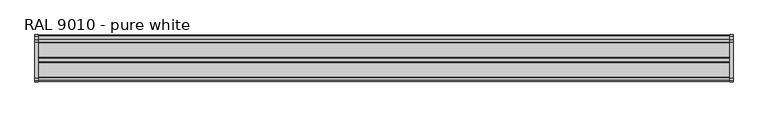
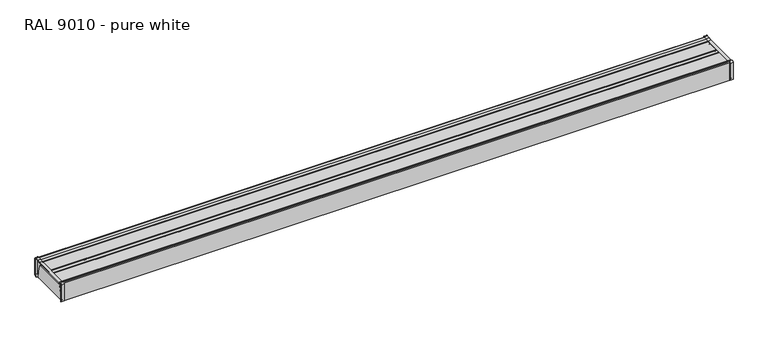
"""IFC4 building model written with IfcOpenShell, lengths in millimetres: proxy geometry, Electrical_Installations_Hager_GBD-Flat-Lid-End-Cap : RAL 9010 - pure white."""

from ifc_helpers import new_model, si_unit, point, frame, frame_2d, origin, place, context, project, spatial, polyline, circle_curve, trimmed, segment, composite_curve, outline, extrude, source, transform, mapped, element, save
from ifc_brep_helpers import plane_surface, cylinder_surface, revolved_surface, advanced_brep


def ral_9010_pure_white_cb93105c(model_context):
    return source(origin(), model_context, "Body", "SolidModel", [
        extrude(outline(composite_curve([segment(trimmed(circle_curve(frame_2d((-49.8914345, 39.6343363)), 5.8656637), [point((-55.5085432, 41.3237445))], [point((-49.8914345, 45.5))], False, "CARTESIAN"), True, "CONTINUOUS"), segment(polyline([(-49.8914345, 45.5), (43.4631366, 45.5)]), True, "CONTINUOUS"), segment(trimmed(circle_curve(frame_2d((43.4631366, 39.5252885)), 5.9747115), [point((43.4631366, 45.5))], [point((49.1782923, 41.2671763))], False, "CARTESIAN"), True, "CONTINUOUS"), segment(trimmed(circle_curve(frame_2d((-128.3197107, -12.8313689)), 185.5591379), [point((49.1782923, 41.2671763))], [point((56.7151603, 1.1074319))], False, "CARTESIAN"), True, "CONTINUOUS"), segment(trimmed(circle_curve(frame_2d((55.6880142, 1.0300563)), 1.0300563), [point((56.7151603, 1.1074319))], [point((55.6880142, 0.0))], False, "CARTESIAN"), True, "CONTINUOUS"), segment(polyline([(55.6880142, 0.0), (-62.1861095, 0.0)]), True, "CONTINUOUS"), segment(trimmed(circle_curve(frame_2d((-62.1861095, 0.9434111)), 0.9434111), [point((-62.1861095, 0.0))], [point((-63.1263922, 1.0201774))], False, "CARTESIAN"), True, "CONTINUOUS"), segment(trimmed(circle_curve(frame_2d((131.2639828, -14.8501783)), 195.0371403), [point((-63.1263922, 1.0201774))], [point((-55.5085432, 41.3237445))], False, "CARTESIAN"), True, "CONTINUOUS")], self_intersect=False)), frame((2002.3392846, 0.0, 0.0), z_axis=(1.0, 0.0, 0.0), x_axis=(0.0, 1.0, 0.0)), (0.0, 0.0, 1.0), 5.5),
        advanced_brep(
        [(2009.0, 68.3826134, 5.0), (2009.0, 68.3826134, 54.4464817), (2009.0, 64.629095, 58.2), (2009.0, 54.3382065, 58.2), (2009.0, 46.6439977, 55.7), (2009.0, -56.7371553, 55.7), (2009.0, -63.8534471, 58.0122234), (2009.0, -68.7173866, 54.4783645), (2009.0, -68.7173866, 0.0), (2009.0, -67.2173866, 0.0), (2009.0, -67.2173866, 54.4740947), (2009.0, -64.3129118, 56.5843192), (2009.0, -56.974732, 54.2), (2009.0, 46.8815743, 54.2), (2009.0, 54.5757832, 56.7), (2009.0, 64.676444, 56.7), (2009.0, 66.8826134, 54.4938306), (2009.0, 66.8826134, 5.2469728), (2009.0, 61.6356406, 0.0), (2009.0, 63.3826134, 0.0), (2000.0, 68.3826134, 5.0), (2000.0, 63.3826134, 0.0), (2000.0, -68.7173866, 0.0), (2000.0, -68.7173866, 54.4783645), (2000.0, -63.8534471, 58.0122234), (2000.0, -56.7371553, 55.7), (2000.0, 46.6439977, 55.7), (2000.0, 54.3382065, 58.2), (2000.0, 64.629095, 58.2), (2000.0, 68.3826134, 54.4464817), (2002.3392846, 68.3826134, 5.0), (2002.3392846, 68.3826134, 54.4464817), (2002.3392846, 64.629095, 58.2), (2002.3392846, 54.3382065, 58.2), (2002.3392846, 46.6439977, 55.7), (2002.3392846, -56.7371553, 55.7), (2002.3392846, -63.8534471, 58.0122234), (2002.3392846, -68.7173866, 54.4783645), (2002.3392846, 61.6356406, 0.0), (2002.3392846, -67.2173866, 0.0), (2002.3392846, -67.2173866, 54.4740947), (2002.3392846, -64.3129118, 56.5843192), (2002.3392846, -56.974732, 54.2), (2002.3392846, 46.8815743, 54.2), (2002.3392846, 54.5757832, 56.7), (2002.3392846, 64.676444, 56.7), (2002.3392846, 66.8826134, 54.4938306), (2002.3392846, 66.8826134, 5.2469728)],
        [
            (0, 1),
            (1, 2, circle_curve(frame((2009.0, 64.629095, 54.4464817), z_axis=(1.0, 0.0, 0.0), x_axis=(0.0, -1.0, 0.0)), 3.7535183)),
            (2, 3),
            (3, 4),
            (4, 5),
            (5, 6),
            (6, 7, circle_curve(frame((2009.0, -65.0016675, 54.4783645), z_axis=(1.0, 0.0, 0.0), x_axis=(0.0, -1.0, 0.0)), 3.7157191)),
            (7, 8),
            (8, 9),
            (9, 10),
            (10, 11, circle_curve(frame((2009.0, -64.9985653, 54.4740947), z_axis=(-1.0, 0.0, 0.0), x_axis=(0.0, -1.0, 0.0)), 2.2188213)),
            (11, 12),
            (12, 13),
            (13, 14),
            (14, 15),
            (15, 16, circle_curve(frame((2009.0, 64.676444, 54.4938306), z_axis=(-1.0, 0.0, 0.0), x_axis=(0.0, -1.0, 0.0)), 2.2061694)),
            (16, 17),
            (17, 18),
            (18, 19),
            (19, 0),
            (20, 21),
            (21, 22),
            (22, 23),
            (23, 24, circle_curve(frame((2000.0, -65.0016675, 54.4783645), z_axis=(-1.0, 0.0, 0.0), x_axis=(0.0, -1.0, 0.0)), 3.7157191)),
            (24, 25),
            (25, 26),
            (26, 27),
            (27, 28),
            (28, 29, circle_curve(frame((2000.0, 64.629095, 54.4464817), z_axis=(-1.0, 0.0, 0.0), x_axis=(0.0, -1.0, 0.0)), 3.7535183)),
            (29, 20),
            (0, 30),
            (30, 20),
            (29, 31),
            (31, 1),
            (28, 32),
            (32, 2),
            (27, 33),
            (33, 3),
            (26, 34),
            (34, 4),
            (25, 35),
            (35, 5),
            (24, 36),
            (36, 6),
            (23, 37),
            (37, 7),
            (22, 8),
            (21, 19),
            (18, 38),
            (38, 39),
            (39, 9),
            (39, 40),
            (40, 10),
            (40, 41, circle_curve(frame((2002.3392846, -64.9985653, 54.4740947), z_axis=(-1.0, 0.0, 0.0), x_axis=(0.0, -1.0, 0.0)), 2.2188213)),
            (41, 11),
            (41, 42),
            (42, 12),
            (42, 43),
            (43, 13),
            (43, 44),
            (44, 14),
            (44, 45),
            (45, 15),
            (45, 46, circle_curve(frame((2002.3392846, 64.676444, 54.4938306), z_axis=(-1.0, 0.0, 0.0), x_axis=(0.0, -1.0, 0.0)), 2.2061694)),
            (46, 16),
            (46, 47),
            (47, 17),
            (47, 38),
        ],
        [
            plane_surface(frame((2009.0, 0.0, 0.0), z_axis=(1.0, 0.0, 0.0), x_axis=(0.0, 0.0, 1.0))),
            plane_surface(frame((2000.0, 0.0, 0.0), z_axis=(-1.0, 0.0, 0.0), x_axis=(0.0, 0.0, 1.0))),
            plane_surface(frame((2009.0, 68.3826134, 5.0), z_axis=(0.0, 1.0, 0.0), x_axis=(-1.0, 0.0, 0.0))),
            cylinder_surface(frame((2009.0, 64.629095, 54.4464817), z_axis=(1.0, 0.0, 0.0), x_axis=(0.0, -1.0, 0.0)), 3.7535183),
            plane_surface(frame((2009.0, 64.629095, 58.2), z_axis=(0.0, 0.0, 1.0), x_axis=(-1.0, 0.0, 0.0))),
            plane_surface(frame((2009.0, 54.3382065, 58.2), z_axis=(0.0, -0.30901699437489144, 0.9510565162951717), x_axis=(-1.0, 0.0, 0.0))),
            plane_surface(frame((2009.0, 46.6439977, 55.7), z_axis=(0.0, 0.0, 1.0), x_axis=(-1.0, 0.0, 0.0))),
            plane_surface(frame((2009.0, -56.7371553, 55.7), z_axis=(0.0, 0.30901699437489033, 0.9510565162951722), x_axis=(-1.0, 0.0, 0.0))),
            cylinder_surface(frame((2009.0, -65.0016675, 54.4783645), z_axis=(1.0, 0.0, 0.0), x_axis=(0.0, -1.0, 0.0)), 3.7157191),
            plane_surface(frame((2009.0, -68.7173866, 54.4783645), z_axis=(0.0, -1.0, 0.0), x_axis=(-1.0, 0.0, 0.0))),
            plane_surface(frame((2009.0, -68.7173866, 0.0), z_axis=(0.0, 0.0, -1.0), x_axis=(-1.0, 0.0, 0.0))),
            plane_surface(frame((2009.0, -67.2173866, 0.0), z_axis=(0.0, 1.0, 0.0), x_axis=(-1.0, 0.0, 0.0))),
            revolved_surface(polyline([(2002.3392846, -67.2173866, 54.4740947), (2009.0, -67.2173866, 54.4740947)]), (2009.0, -64.9985653, 54.4740947), (-1.0, 0.0, 0.0)),
            plane_surface(frame((2009.0, -64.3129118, 56.5843192), z_axis=(0.0, -0.3090169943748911, -0.951056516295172), x_axis=(-1.0, 0.0, 0.0))),
            plane_surface(frame((2009.0, -56.974732, 54.2), z_axis=(0.0, 0.0, -1.0), x_axis=(-1.0, 0.0, 0.0))),
            plane_surface(frame((2009.0, 46.8815743, 54.2), z_axis=(0.0, 0.30901699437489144, -0.9510565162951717), x_axis=(-1.0, 0.0, 0.0))),
            plane_surface(frame((2009.0, 54.5757832, 56.7), z_axis=(0.0, 0.0, -1.0), x_axis=(-1.0, 0.0, 0.0))),
            revolved_surface(polyline([(2002.3392846, 62.4702746, 54.4938306), (2009.0, 62.4702746, 54.4938306)]), (2009.0, 64.676444, 54.4938306), (-1.0, 0.0, 0.0)),
            plane_surface(frame((2009.0, 66.8826134, 54.4938306), z_axis=(0.0, -1.0, 0.0), x_axis=(-1.0, 0.0, 0.0))),
            plane_surface(frame((2009.0, 66.8826134, 5.2469728), z_axis=(0.0, -0.7071067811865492, 0.7071067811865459), x_axis=(-1.0, 0.0, 0.0))),
            plane_surface(frame((2009.0, 63.3826134, 0.0), z_axis=(0.0, 0.7071067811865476, -0.7071067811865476), x_axis=(-1.0, 0.0, 0.0))),
            plane_surface(frame((2002.3392846, -68.7173866, 54.4783645), z_axis=(1.0, 0.0, 0.0), x_axis=(0.0, 0.0, -1.0))),
        ],
        [
            (0, [[1, 2, 3, 4, 5, 6, 7, 8, 9, 10, 11, 12, 13, 14, 15, 16, 17, 18, 19, 20]]),
            (1, [[21, 22, 23, 24, 25, 26, 27, 28, 29, 30]]),
            (2, [[-1, 31, 32, -30, 33, 34]]),
            (3, [[-2, -34, -33, -29, 35, 36]]),
            (4, [[-3, -36, -35, -28, 37, 38]]),
            (5, [[-4, -38, -37, -27, 39, 40]]),
            (6, [[-5, -40, -39, -26, 41, 42]]),
            (7, [[-6, -42, -41, -25, 43, 44]]),
            (8, [[-7, -44, -43, -24, 45, 46]]),
            (9, [[47, -8, -46, -45, -23]]),
            (10, [[-9, -47, -22, 48, -19, 49, 50, 51]]),
            (11, [[-10, -51, 52, 53]]),
            (12, [[-11, -53, 54, 55]]),
            (13, [[-12, -55, 56, 57]]),
            (14, [[-13, -57, 58, 59]]),
            (15, [[-14, -59, 60, 61]]),
            (16, [[-15, -61, 62, 63]]),
            (17, [[-16, -63, 64, 65]]),
            (18, [[-17, -65, 66, 67]]),
            (19, [[-18, -67, 68, -49]]),
            (20, [[-20, -48, -21, -32, -31]]),
            (21, [[-50, -68, -66, -64, -62, -60, -58, -56, -54, -52]]),
        ],
    ),
        advanced_brep(
        [(-9.0, 68.3826134, 5.0), (-9.0, 63.3826134, 0.0), (-9.0, 61.6356406, 0.0), (-9.0, 66.8826134, 5.2469728), (-9.0, 66.8826134, 54.4938306), (-9.0, 64.676444, 56.7), (-9.0, 54.5757832, 56.7), (-9.0, 46.8815743, 54.2), (-9.0, -56.974732, 54.2), (-9.0, -64.3129118, 56.5843192), (-9.0, -67.2173866, 54.4740947), (-9.0, -67.2173866, 0.0), (-9.0, -68.7173866, 0.0), (-9.0, -68.7173866, 54.4783645), (-9.0, -63.8534471, 58.0122234), (-9.0, -56.7371553, 55.7), (-9.0, 46.6439977, 55.7), (-9.0, 54.3382065, 58.2), (-9.0, 64.629095, 58.2), (-9.0, 68.3826134, 54.4464817), (0.0, 68.3826134, 5.0), (0.0, 68.3826134, 54.4464817), (0.0, 64.629095, 58.2), (0.0, 54.3382065, 58.2), (0.0, 46.6439977, 55.7), (0.0, -56.7371553, 55.7), (0.0, -63.8534471, 58.0122234), (0.0, -68.7173866, 54.4783645), (0.0, -68.7173866, 0.0), (0.0, 63.3826134, 0.0), (-2.3392846, 68.3826134, 54.4464817), (-2.3392846, 68.3826134, 5.0), (-2.3392846, 64.629095, 58.2), (-2.3392846, 54.3382065, 58.2), (-2.3392846, 46.6439977, 55.7), (-2.3392846, -56.7371553, 55.7), (-2.3392846, -63.8534471, 58.0122234), (-2.3392846, -68.7173866, 54.4783645), (-2.3392846, -67.2173866, 0.0), (-2.3392846, -62.1861095, 0.0), (-5.4994698, -62.1861095, 0.0), (-5.4994698, 55.6880142, 0.0), (-2.3392846, 55.6880142, 0.0), (-2.3392846, 61.6356406, 0.0), (-2.3392846, -67.2173866, 54.4740947), (-2.3392846, -64.3129118, 56.5843192), (-2.3392846, -56.974732, 54.2), (-2.3392846, 46.8815743, 54.2), (-2.3392846, 54.5757832, 56.7), (-2.3392846, 64.676444, 56.7), (-2.3392846, 66.8826134, 54.4938306), (-2.3392846, 66.8826134, 5.2469728), (-2.3392846, 56.7151603, 1.1074319), (-2.3392846, 49.1782923, 41.2671763), (-2.3392846, 43.4631366, 45.5), (-2.3392846, -49.8914345, 45.5), (-2.3392846, -55.5085432, 41.3237445), (-2.3392846, -63.1263922, 1.0201774), (-5.4994698, -49.8914345, 45.5), (-5.4994698, 43.4631366, 45.5), (-5.4994698, 49.1782923, 41.2671763), (-5.4994698, 56.7151603, 1.1074319), (-5.4994698, -63.1263922, 1.0201774), (-5.4994698, -55.5085432, 41.3237445)],
        [
            (0, 1),
            (1, 2),
            (2, 3),
            (3, 4),
            (4, 5, circle_curve(frame((-9.0, 64.676444, 54.4938306), z_axis=(1.0, 0.0, 0.0), x_axis=(0.0, 1.0, 0.0)), 2.2061694)),
            (5, 6),
            (6, 7),
            (7, 8),
            (8, 9),
            (9, 10, circle_curve(frame((-9.0, -64.9985653, 54.4740947), z_axis=(1.0, 0.0, 0.0), x_axis=(0.0, 1.0, 0.0)), 2.2188213)),
            (10, 11),
            (11, 12),
            (12, 13),
            (13, 14, circle_curve(frame((-9.0, -65.0016675, 54.4783645), z_axis=(-1.0, 0.0, 0.0), x_axis=(0.0, 1.0, 0.0)), 3.7157191)),
            (14, 15),
            (15, 16),
            (16, 17),
            (17, 18),
            (18, 19, circle_curve(frame((-9.0, 64.629095, 54.4464817), z_axis=(-1.0, 0.0, 0.0), x_axis=(0.0, 1.0, 0.0)), 3.7535183)),
            (19, 0),
            (20, 21),
            (21, 22, circle_curve(frame((0.0, 64.629095, 54.4464817), z_axis=(1.0, 0.0, 0.0), x_axis=(0.0, 1.0, 0.0)), 3.7535183)),
            (22, 23),
            (23, 24),
            (24, 25),
            (25, 26),
            (26, 27, circle_curve(frame((0.0, -65.0016675, 54.4783645), z_axis=(1.0, 0.0, 0.0), x_axis=(0.0, 1.0, 0.0)), 3.7157191)),
            (27, 28),
            (28, 29),
            (29, 20),
            (19, 30),
            (30, 21),
            (20, 31),
            (31, 0),
            (18, 32),
            (32, 22),
            (17, 33),
            (33, 23),
            (16, 34),
            (34, 24),
            (15, 35),
            (35, 25),
            (14, 36),
            (36, 26),
            (13, 37),
            (37, 27),
            (12, 28),
            (1, 29),
            (11, 38),
            (38, 39),
            (39, 40),
            (40, 41),
            (41, 42),
            (42, 43),
            (43, 2),
            (10, 44),
            (44, 38),
            (9, 45),
            (45, 44, circle_curve(frame((-2.3392846, -64.9985653, 54.4740947), z_axis=(1.0, 0.0, 0.0), x_axis=(0.0, 1.0, 0.0)), 2.2188213)),
            (8, 46),
            (46, 45),
            (7, 47),
            (47, 46),
            (6, 48),
            (48, 47),
            (5, 49),
            (49, 48),
            (4, 50),
            (50, 49, circle_curve(frame((-2.3392846, 64.676444, 54.4938306), z_axis=(1.0, 0.0, 0.0), x_axis=(0.0, 1.0, 0.0)), 2.2061694)),
            (3, 51),
            (51, 50),
            (43, 51),
            (42, 52, circle_curve(frame((-2.3392846, 55.6880142, 1.0300563), z_axis=(1.0, 0.0, 0.0), x_axis=(0.0, 0.0, 1.0)), 1.0300563)),
            (52, 53, circle_curve(frame((-2.3392846, -128.3197107, -12.8313689), z_axis=(1.0, 0.0, 0.0), x_axis=(0.0, 0.0, 1.0)), 185.5591379)),
            (53, 54, circle_curve(frame((-2.3392846, 43.4631366, 39.5252885), z_axis=(1.0, 0.0, 0.0), x_axis=(0.0, 0.0, 1.0)), 5.9747115)),
            (54, 55),
            (55, 56, circle_curve(frame((-2.3392846, -49.8914345, 39.6343363), z_axis=(1.0, 0.0, 0.0), x_axis=(0.0, 0.0, 1.0)), 5.8656637)),
            (56, 57, circle_curve(frame((-2.3392846, 131.2639828, -14.8501783), z_axis=(1.0, 0.0, 0.0), x_axis=(0.0, 0.0, 1.0)), 195.0371403)),
            (57, 39, circle_curve(frame((-2.3392846, -62.1861095, 0.9434111), z_axis=(1.0, 0.0, 0.0), x_axis=(0.0, 0.0, 1.0)), 0.9434111)),
            (58, 59),
            (59, 60, circle_curve(frame((-5.4994698, 43.4631366, 39.5252885), z_axis=(-1.0, 0.0, 0.0), x_axis=(0.0, 0.0, 1.0)), 5.9747115)),
            (60, 61, circle_curve(frame((-5.4994698, -128.3197107, -12.8313689), z_axis=(-1.0, 0.0, 0.0), x_axis=(0.0, 0.0, 1.0)), 185.5591379)),
            (61, 41, circle_curve(frame((-5.4994698, 55.6880142, 1.0300563), z_axis=(-1.0, 0.0, 0.0), x_axis=(0.0, 0.0, 1.0)), 1.0300563)),
            (40, 62, circle_curve(frame((-5.4994698, -62.1861095, 0.9434111), z_axis=(-1.0, 0.0, 0.0), x_axis=(0.0, 0.0, 1.0)), 0.9434111)),
            (62, 63, circle_curve(frame((-5.4994698, 131.2639828, -14.8501783), z_axis=(-1.0, 0.0, 0.0), x_axis=(0.0, 0.0, 1.0)), 195.0371403)),
            (63, 58, circle_curve(frame((-5.4994698, -49.8914345, 39.6343363), z_axis=(-1.0, 0.0, 0.0), x_axis=(0.0, 0.0, 1.0)), 5.8656637)),
            (63, 56),
            (55, 58),
            (62, 57),
            (61, 52),
            (60, 53),
            (59, 54),
        ],
        [
            plane_surface(frame((-9.0, 0.0, 0.0), z_axis=(-1.0, 0.0, 0.0), x_axis=(0.0, 0.0, 1.0))),
            plane_surface(frame((0.0, 0.0, 0.0), z_axis=(1.0, 0.0, 0.0), x_axis=(0.0, 0.0, 1.0))),
            plane_surface(frame((-9.0, 68.3826134, 54.4464817), z_axis=(0.0, 1.0, 0.0), x_axis=(1.0, 0.0, 0.0))),
            cylinder_surface(frame((-9.0, 64.629095, 54.4464817), z_axis=(-1.0, 0.0, 0.0), x_axis=(0.0, 1.0, 0.0)), 3.7535183),
            plane_surface(frame((-9.0, 54.3382065, 58.2), z_axis=(0.0, 0.0, 1.0), x_axis=(1.0, 0.0, 0.0))),
            plane_surface(frame((-9.0, 46.6439977, 55.7), z_axis=(0.0, -0.30901699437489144, 0.9510565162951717), x_axis=(1.0, 0.0, 0.0))),
            plane_surface(frame((-9.0, -56.7371553, 55.7), z_axis=(0.0, 0.0, 1.0), x_axis=(1.0, 0.0, 0.0))),
            plane_surface(frame((-9.0, -63.8534471, 58.0122234), z_axis=(0.0, 0.30901699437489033, 0.9510565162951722), x_axis=(1.0, 0.0, 0.0))),
            cylinder_surface(frame((-9.0, -65.0016675, 54.4783645), z_axis=(-1.0, 0.0, 0.0), x_axis=(0.0, 1.0, 0.0)), 3.7157191),
            plane_surface(frame((-9.0, -68.7173866, 0.0), z_axis=(0.0, -1.0, 0.0), x_axis=(1.0, 0.0, 0.0))),
            plane_surface(frame((-9.0, -67.2173866, 0.0), z_axis=(0.0, 0.0, -1.0), x_axis=(1.0, 0.0, 0.0))),
            plane_surface(frame((-9.0, -67.2173866, 54.4740947), z_axis=(0.0, 1.0, 0.0), x_axis=(1.0, 0.0, 0.0))),
            revolved_surface(polyline([(-2.3392846, -62.779743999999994, 54.4740947), (-9.0, -62.779743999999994, 54.4740947)]), (-9.0, -64.9985653, 54.4740947), (1.0, 0.0, 0.0)),
            plane_surface(frame((-9.0, -56.974732, 54.2), z_axis=(0.0, -0.3090169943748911, -0.951056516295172), x_axis=(1.0, 0.0, 0.0))),
            plane_surface(frame((-9.0, 46.8815743, 54.2), z_axis=(0.0, 0.0, -1.0), x_axis=(1.0, 0.0, 0.0))),
            plane_surface(frame((-9.0, 54.5757832, 56.7), z_axis=(0.0, 0.30901699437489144, -0.9510565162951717), x_axis=(1.0, 0.0, 0.0))),
            plane_surface(frame((-9.0, 64.676444, 56.7), z_axis=(0.0, 0.0, -1.0), x_axis=(1.0, 0.0, 0.0))),
            revolved_surface(polyline([(-2.3392846, 66.8826134, 54.4938306), (-9.0, 66.8826134, 54.4938306)]), (-9.0, 64.676444, 54.4938306), (1.0, 0.0, 0.0)),
            plane_surface(frame((-9.0, 66.8826134, 5.2469728), z_axis=(0.0, -1.0, 0.0), x_axis=(1.0, 0.0, 0.0))),
            plane_surface(frame((-9.0, 61.6356406, 0.0), z_axis=(0.0, -0.7071067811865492, 0.7071067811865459), x_axis=(1.0, 0.0, 0.0))),
            plane_surface(frame((-9.0, 68.3826134, 5.0), z_axis=(0.0, 0.7071067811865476, -0.7071067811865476), x_axis=(1.0, 0.0, 0.0))),
            plane_surface(frame((-2.3392846, -56.7371553, 55.7), z_axis=(-1.0000000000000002, 0.0, 0.0), x_axis=(0.0, 0.9510565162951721, -0.30901699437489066))),
            plane_surface(frame((-5.4994698, 43.3948324, 45.5), z_axis=(-1.0, 0.0, 0.0), x_axis=(0.0, 1.0, 0.0))),
            cylinder_surface(frame((0.0, -49.8914345, 39.6343363), z_axis=(-1.0, 0.0, 0.0), x_axis=(0.0, 0.0, 1.0)), 5.8656637),
            cylinder_surface(frame((0.0, 131.2639828, -14.8501783), z_axis=(-1.0, 0.0, 0.0), x_axis=(0.0, 0.0, 1.0)), 195.0371403),
            cylinder_surface(frame((0.0, -62.1861095, 0.9434111), z_axis=(-1.0, 0.0, 0.0), x_axis=(0.0, 0.0, 1.0)), 0.9434111),
            cylinder_surface(frame((0.0, 55.6880142, 1.0300563), z_axis=(-1.0, 0.0, 0.0), x_axis=(0.0, 0.0, 1.0)), 1.0300563),
            cylinder_surface(frame((0.0, -128.3197107, -12.8313689), z_axis=(-1.0, 0.0, 0.0), x_axis=(0.0, 0.0, 1.0)), 185.5591379),
            cylinder_surface(frame((0.0, 43.4631366, 39.5252885), z_axis=(-1.0, 0.0, 0.0), x_axis=(0.0, 0.0, 1.0)), 5.9747115),
            plane_surface(frame((-5.4994698, -49.8914345, 45.5), z_axis=(0.0, 0.0, 1.0), x_axis=(1.0, 0.0, 0.0))),
        ],
        [
            (0, [[1, 2, 3, 4, 5, 6, 7, 8, 9, 10, 11, 12, 13, 14, 15, 16, 17, 18, 19, 20]]),
            (1, [[21, 22, 23, 24, 25, 26, 27, 28, 29, 30]]),
            (2, [[-20, 31, 32, -21, 33, 34]]),
            (3, [[-19, 35, 36, -22, -32, -31]]),
            (4, [[-18, 37, 38, -23, -36, -35]]),
            (5, [[-17, 39, 40, -24, -38, -37]]),
            (6, [[-16, 41, 42, -25, -40, -39]]),
            (7, [[-15, 43, 44, -26, -42, -41]]),
            (8, [[-14, 45, 46, -27, -44, -43]]),
            (9, [[-13, 47, -28, -46, -45]]),
            (10, [[-2, 48, -29, -47, -12, 49, 50, 51, 52, 53, 54, 55]]),
            (11, [[-11, 56, 57, -49]]),
            (12, [[-10, 58, 59, -56]]),
            (13, [[-9, 60, 61, -58]]),
            (14, [[-8, 62, 63, -60]]),
            (15, [[-7, 64, 65, -62]]),
            (16, [[-6, 66, 67, -64]]),
            (17, [[-5, 68, 69, -66]]),
            (18, [[-4, 70, 71, -68]]),
            (19, [[-3, -55, 72, -70]]),
            (20, [[-1, -34, -33, -30, -48]]),
            (21, [[-57, -59, -61, -63, -65, -67, -69, -71, -72, -54, 73, 74, 75, 76, 77, 78, 79, -50]]),
            (22, [[80, 81, 82, 83, -52, 84, 85, 86]]),
            (23, [[-86, 87, -77, 88]]),
            (24, [[-85, 89, -78, -87]]),
            (25, [[-84, -51, -79, -89]]),
            (26, [[-83, 90, -73, -53]]),
            (27, [[-82, 91, -74, -90]]),
            (28, [[-81, 92, -75, -91]]),
            (29, [[-80, -88, -76, -92]]),
        ],
    ),
        extrude(outline(composite_curve([segment(polyline([(-64.6976563, 54.0894343), (-64.6976563, 2.0), (-2.2476563, 2.0), (-2.2476563, 38.3324137), (-0.2476563, 49.6749773), (-0.2476563, 52.0), (-9.8476563, 52.0), (-9.8476563, 41.5012147), (-14.5382813, 41.5012147), (-14.5382813, 45.748101), (-13.5382813, 45.748101), (-13.5382813, 42.9887147), (-11.6476563, 42.9887147), (-11.6476563, 53.0031102)]), True, "CONTINUOUS"), segment(trimmed(circle_curve(frame_2d((-10.6507665, 53.0031102)), 0.9968898), [point((-11.6476563, 53.0031102))], [point((-10.6507665, 54.0))], False, "CARTESIAN"), True, "CONTINUOUS"), segment(polyline([(-10.6507665, 54.0), (0.7441474, 54.0)]), True, "CONTINUOUS"), segment(trimmed(circle_curve(frame_2d((0.7441474, 52.9918037)), 1.0081963), [point((0.7441474, 54.0))], [point((1.7523437, 52.9918037))], False, "CARTESIAN"), True, "CONTINUOUS"), segment(polyline([(1.7523437, 52.9918037), (1.7523437, 49.5), (0.6591165, 43.3), (3.2523437, 43.3), (3.2523437, 45.7537431), (4.2523437, 45.7537431), (4.2523437, 41.5), (0.3417279, 41.5), (-0.2476563, 38.1574364), (-0.2476563, 2.0), (60.5496526, 2.0), (64.5023437, 5.9526912), (64.5023437, 54.2), (54.8614746, 54.2), (48.5523437, 52.1500391), (48.5523437, 41.5), (44.2523437, 41.5), (44.2523437, 45.7556921), (45.2523437, 45.7556921), (45.2523437, 42.9887147), (46.7523437, 42.9887147), (46.7523437, 53.9835468), (54.4971904, 56.5), (64.8989144, 56.5)]), True, "CONTINUOUS"), segment(trimmed(circle_curve(frame_2d((64.8989144, 54.5965707)), 1.9034293), [point((64.8989144, 56.5))], [point((66.8023437, 54.5965707))], False, "CARTESIAN"), True, "CONTINUOUS"), segment(polyline([(66.8023437, 54.5965707), (66.8023437, 5.0), (61.8023437, 0.0), (-66.9976563, 0.0), (-66.9976563, 54.4045249)]), True, "CONTINUOUS"), segment(trimmed(circle_curve(frame_2d((-64.9278927, 54.4045249)), 2.0697636), [point((-66.9976563, 54.4045249))], [point((-64.2989994, 56.3764312))], False, "CARTESIAN"), True, "CONTINUOUS"), segment(polyline([(-64.2989994, 56.3764312), (-56.8429688, 53.998505), (-56.8429688, 42.9887147), (-54.6789063, 42.9887147), (-54.6789063, 45.7565885), (-53.6789063, 45.7565885), (-53.6789063, 41.5012147), (-58.4476563, 41.5012147), (-58.4476563, 52.0961433), (-64.6976563, 54.0894343)]), True, "CONTINUOUS")], self_intersect=False)), frame((0.0, 0.0, 0.0), z_axis=(1.0, 0.0, 0.0), x_axis=(0.0, 1.0, 0.0)), (0.0, 0.0, 1.0), 2000.0),
        extrude(outline(composite_curve([segment(polyline([(-13.1613464, 52.5816445), (-55.0613464, 52.5816445), (-55.0613464, 49.2816445), (-53.7229555, 49.2816445)]), True, "CONTINUOUS"), segment(trimmed(circle_curve(frame_2d((-53.7229555, 47.1700354)), 2.1116091), [point((-53.7229555, 49.2816445))], [point((-51.6113464, 47.1700354))], False, "CARTESIAN"), True, "CONTINUOUS"), segment(polyline([(-51.6113464, 47.1700354), (-51.6113464, 37.6816445), (-49.7113464, 37.6816445), (-49.7113464, 36.8816445), (-52.6113464, 36.8816445), (-52.6113464, 47.3262929)]), True, "CONTINUOUS"), segment(trimmed(circle_curve(frame_2d((-53.566698, 47.3262929)), 0.9553516), [point((-52.6113464, 47.3262929))], [point((-53.566698, 48.2816445))], True, "CARTESIAN"), True, "CONTINUOUS"), segment(polyline([(-53.566698, 48.2816445), (-55.3644879, 48.2816445), (-55.3644879, 43.8012242), (-56.3660339, 43.8012242), (-56.3660339, 53.0900381)]), True, "CONTINUOUS"), segment(trimmed(circle_curve(frame_2d((-55.456072, 53.0900381)), 0.9099619), [point((-56.3660339, 53.0900381))], [point((-55.456072, 54.0))], False, "CARTESIAN"), True, "CONTINUOUS"), segment(polyline([(-55.456072, 54.0), (-12.9820268, 54.0)]), True, "CONTINUOUS"), segment(trimmed(circle_curve(frame_2d((-12.9820268, 52.9918196)), 1.0081804), [point((-12.9820268, 54.0))], [point((-11.9738464, 52.9918196))], False, "CARTESIAN"), True, "CONTINUOUS"), segment(polyline([(-11.9738464, 52.9918196), (-11.9738464, 43.8012242), (-12.858205, 43.8012242), (-12.858205, 48.2816445), (-14.6025892, 48.2816445)]), True, "CONTINUOUS"), segment(trimmed(circle_curve(frame_2d((-14.6025892, 47.2728873)), 1.0087572), [point((-14.6025892, 48.2816445))], [point((-15.6113464, 47.2728873))], True, "CARTESIAN"), True, "CONTINUOUS"), segment(polyline([(-15.6113464, 47.2728873), (-15.6113464, 36.8816445), (-18.5113464, 36.8816445), (-18.5113464, 37.6816445), (-16.6113464, 37.6816445), (-16.6113464, 47.3197896)]), True, "CONTINUOUS"), segment(trimmed(circle_curve(frame_2d((-14.6494915, 47.3197896)), 1.9618549), [point((-16.6113464, 47.3197896))], [point((-14.6494915, 49.2816445))], False, "CARTESIAN"), True, "CONTINUOUS"), segment(polyline([(-14.6494915, 49.2816445), (-13.1613464, 49.2816445), (-13.1613464, 52.5816445)]), True, "CONTINUOUS")], self_intersect=False)), frame((0.0, 0.0, 0.0), z_axis=(1.0, 0.0, 0.0), x_axis=(0.0, 1.0, 0.0)), (0.0, 0.0, 1.0), 2000.0),
        extrude(outline(composite_curve([segment(polyline([(45.1923672, 52.5816445), (3.2923672, 52.5816445), (3.2923672, 49.2816445), (4.6307581, 49.2816445)]), True, "CONTINUOUS"), segment(trimmed(circle_curve(frame_2d((4.6307581, 47.1700354)), 2.1116091), [point((4.6307581, 49.2816445))], [point((6.7423672, 47.1700354))], False, "CARTESIAN"), True, "CONTINUOUS"), segment(polyline([(6.7423672, 47.1700354), (6.7423672, 37.6816445), (8.6423672, 37.6816445), (8.6423672, 36.8816445), (5.7423672, 36.8816445), (5.7423672, 47.3262929)]), True, "CONTINUOUS"), segment(trimmed(circle_curve(frame_2d((4.7870156, 47.3262929)), 0.9553516), [point((5.7423672, 47.3262929))], [point((4.7870156, 48.2816445))], True, "CARTESIAN"), True, "CONTINUOUS"), segment(polyline([(4.7870156, 48.2816445), (2.9892258, 48.2816445), (2.9892258, 43.8231023), (1.9876797, 43.8231023), (1.9876797, 53.0900381)]), True, "CONTINUOUS"), segment(trimmed(circle_curve(frame_2d((2.8976417, 53.0900381)), 0.9099619), [point((1.9876797, 53.0900381))], [point((2.8976417, 54.0))], False, "CARTESIAN"), True, "CONTINUOUS"), segment(polyline([(2.8976417, 54.0), (45.3716869, 54.0)]), True, "CONTINUOUS"), segment(trimmed(circle_curve(frame_2d((45.3716869, 52.9918196)), 1.0081804), [point((45.3716869, 54.0))], [point((46.3798672, 52.9918196))], False, "CARTESIAN"), True, "CONTINUOUS"), segment(polyline([(46.3798672, 52.9918196), (46.3798672, 43.9733035), (45.4955087, 43.9733035), (45.4955087, 48.2816445), (43.7511244, 48.2816445)]), True, "CONTINUOUS"), segment(trimmed(circle_curve(frame_2d((43.7511244, 47.2728873)), 1.0087572), [point((43.7511244, 48.2816445))], [point((42.7423672, 47.2728873))], True, "CARTESIAN"), True, "CONTINUOUS"), segment(polyline([(42.7423672, 47.2728873), (42.7423672, 36.8816445), (39.8423672, 36.8816445), (39.8423672, 37.6816445), (41.7423672, 37.6816445), (41.7423672, 47.3197896)]), True, "CONTINUOUS"), segment(trimmed(circle_curve(frame_2d((43.7042221, 47.3197896)), 1.9618549), [point((41.7423672, 47.3197896))], [point((43.7042221, 49.2816445))], False, "CARTESIAN"), True, "CONTINUOUS"), segment(polyline([(43.7042221, 49.2816445), (45.1923672, 49.2816445), (45.1923672, 52.5816445)]), True, "CONTINUOUS")], self_intersect=False)), frame((0.0, 0.0, 0.0), z_axis=(1.0, 0.0, 0.0), x_axis=(0.0, 1.0, 0.0)), (0.0, 0.0, 1.0), 2000.0),
    ])


if __name__ == "__main__":
    model = new_model("IFC4")
    model_context = context("Model", 3, world=origin())
    ifc_project = project(units=[si_unit("LENGTHUNIT", "METRE", prefix="MILLI")], contexts=[model_context])
    site = spatial("IfcSite", under=ifc_project)
    building = spatial("IfcBuilding", under=site)
    placement = place(None, origin())
    ral_9010_pure_white_shape = ral_9010_pure_white_cb93105c(model_context)
    element("IfcBuildingElementProxy", 1, Name="Electrical_Installations_Hager_GBD-Flat-Lid-End-Cap : RAL 9010 - pure white", ObjectType="Electrical_Installations_Hager_GBD-Flat-Lid-End-Cap : RAL 9010 - pure white", at=placement, inside=building, context=model_context, shape_type="MappedRepresentation", body=[
        mapped(ral_9010_pure_white_shape, transform((0.0, 0.0, 0.0), x_axis=(1.0, 0.0, 0.0), y_axis=(0.0, 1.0, 0.0), z_axis=(0.0, 0.0, 1.0))),
    ])
    save(model, "model.ifc")
